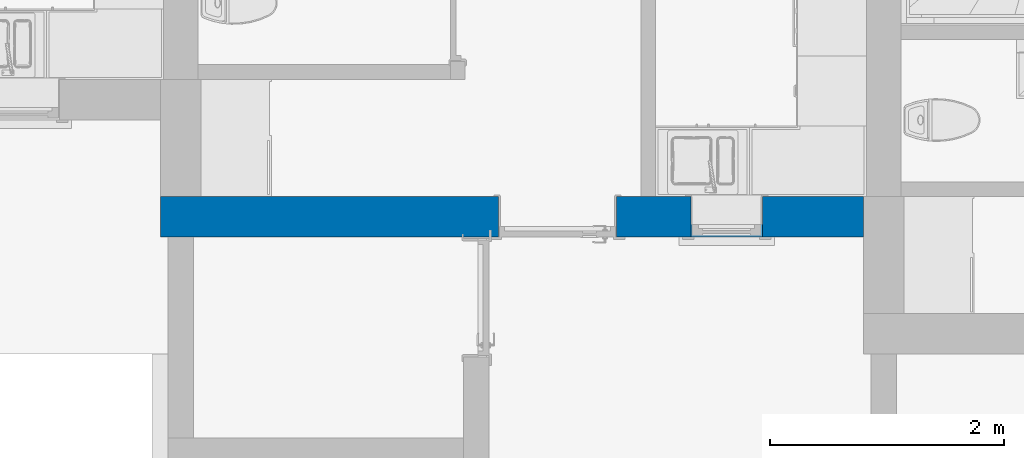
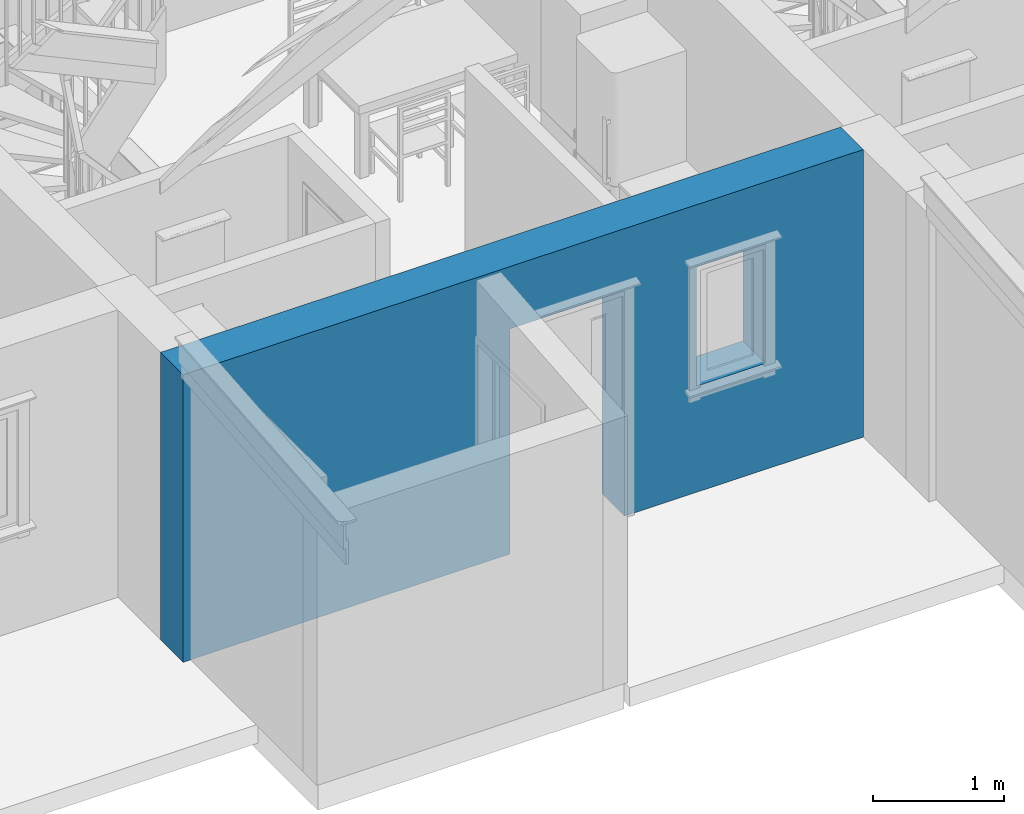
# One storey, part 13 of 65: 1 wall, 2 openings.
"""IFC2X3 building model written with IfcOpenShell, lengths in millimetres."""

from ifc_helpers import new_model, entity, si_unit, converted_unit, direction, frame, frame_2d, origin, place, context, subcontext, project, spatial, rectangle, extrude, material, layer, layer_set, layer_usage, type_object, element, save


model = new_model("IFC2X3")

# Units and contexts
model_context = context("Model", 3, precision=0.01, world=origin(), true_north=direction((0.0, 1.0)))
body_context = subcontext(model_context, "Body", "Model", "MODEL_VIEW")
ifc_project = project(units=[si_unit("LENGTHUNIT", "METRE", prefix="MILLI"), si_unit("AREAUNIT", "SQUARE_METRE"), si_unit("VOLUMEUNIT", "CUBIC_METRE"), converted_unit("PLANEANGLEUNIT", "DEGREE", entity("IfcPlaneAngleMeasure", 0.017453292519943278), si_unit("PLANEANGLEUNIT", "RADIAN"), dimensions=[0, 0, 0, 0, 0, 0, 0])], contexts=[model_context])

# Site, building, storey
site_placement = place(None, origin())
site = spatial("IfcSite", under=ifc_project, at=site_placement, Name="Default", CompositionType="ELEMENT")
building_placement = place(site_placement, origin())
building = spatial("IfcBuilding", under=site, at=building_placement, CompositionType="ELEMENT")
storey_placement = place(building_placement, origin())
storey = spatial("IfcBuildingStorey", under=building, at=storey_placement, Name="Et. 1", CompositionType="ELEMENT", Elevation=0.0)

# Wall, openings
ifc_material_1 = material(Name="Vegg - Stående Kledning_smal - HVIT")
ifc_layer_1 = layer(ifc_material_1, 19.0)
ifc_material_2 = material(Name="Vegg - Utlekting")
ifc_layer_2 = layer(ifc_material_2, 36.0)
ifc_layer_3 = layer(ifc_material_2, 23.0)
ifc_material_3 = material(Name="Vegg - Gips - GU")
ifc_layer_4 = layer(ifc_material_3, 9.0)
ifc_material_4 = material(Name="Vegg - Stender - Isolert")
ifc_layer_5 = layer(ifc_material_4, 198.0)
ifc_material_5 = material(Name="Vegg - Påforing - Isolert")
ifc_layer_6 = layer(ifc_material_5, 48.0)
ifc_material_6 = material(Name="Vegg - Gips - Hvit")
ifc_layer_7 = layer(ifc_material_6, 13.000000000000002)
ifc_layer_set = layer_set([ifc_layer_1, ifc_layer_2, ifc_layer_3, ifc_layer_4, ifc_layer_5, ifc_layer_6, ifc_layer_7], Name="Basic Wall:23-Kv(sm)TIG-19_36_23_9_198_48_13")
ifc_layer_usage = layer_usage(ifc_layer_set, "AXIS2", "NEGATIVE", 173.0)
wall_type = type_object("IfcWallType", Name="Basic Wall:23-Kv(sm)TIG-19_36_23_9_198_48_13", PredefinedType="STANDARD", material=ifc_layer_set)
wall_placement = place(storey_placement, frame((22005.00958675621, 10581.180957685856, 0.0), z_axis=(0.0, 0.0, 1.0), x_axis=(-1.0, 0.0, 0.0)))
wall = element("IfcWallStandardCase", 1, at=wall_placement, inside=storey, type_object=wall_type, material=ifc_layer_usage, Name="Basic Wall:23-Kv(sm)TIG-19_36_23_9_198_48_13", context=body_context, shape_type="SweptSolid", body=[
    extrude(rectangle(XDim=6000.00000000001, YDim=345.9999999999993, at=frame_2d((3000.000000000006, 4.405364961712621e-13), x_axis=(1.0, 0.0))), origin(), (0.0, 0.0, 1.0), 2681.000000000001),
])
opening_1_placement = place(wall_placement, frame((2106.499999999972, -173.0, 0.0)))
element("IfcOpeningElement", 2, at=opening_1_placement, cuts=wall, Name="YD 1 Glassfelt omramming:10x21M:1", ObjectType="Opening", context=body_context, shape_type="SweptSolid", body=[
    extrude(rectangle(XDim=1010.0000000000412, YDim=2100.000000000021, at=frame_2d((1050.0000000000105, 505.0000000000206), x_axis=(0.0, 1.0))), frame((0.0, 0.0, 0.0), z_axis=(0.0, 1.0, 0.0), x_axis=(0.0, 0.0, 1.0)), (0.0, 0.0, 1.0), 346.0),
])
opening_2_placement = place(wall_placement, frame((863.0, -173.0, 990.0)))
element("IfcOpeningElement", 3, at=opening_2_placement, cuts=wall, Name="Hel Rute Åpningsvindu m omramming:6x11M:1", ObjectType="Opening", context=body_context, shape_type="SweptSolid", body=[
    extrude(rectangle(XDim=609.9999999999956, YDim=1109.9999999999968, at=frame_2d((554.9999999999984, 304.9999999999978), x_axis=(0.0, -1.0))), frame((0.0, 0.0, 0.0), z_axis=(0.0, 1.0, 0.0), x_axis=(0.0, 0.0, 1.0)), (0.0, 0.0, 1.0), 346.0),
])

save(model, "model.ifc")
